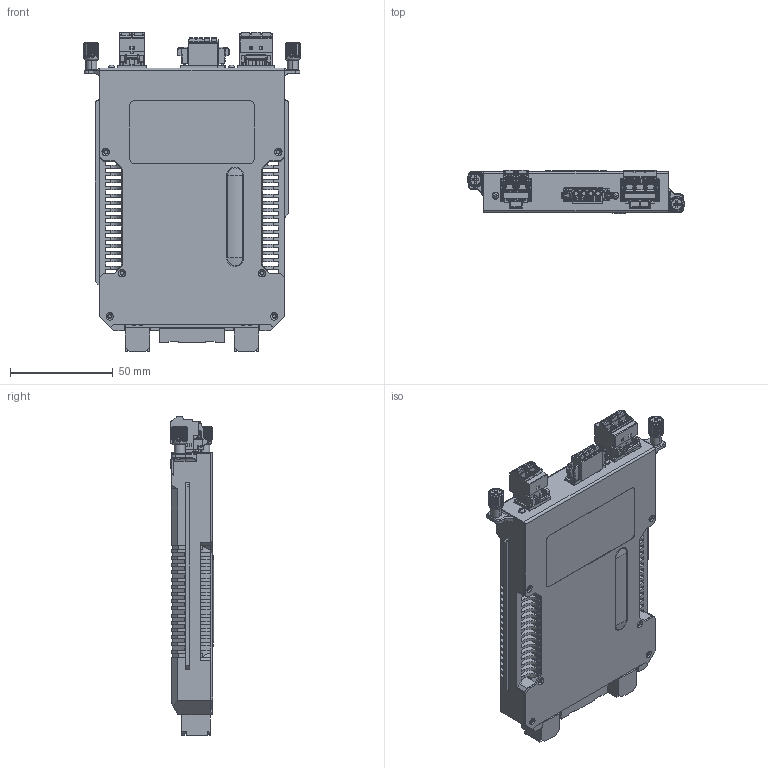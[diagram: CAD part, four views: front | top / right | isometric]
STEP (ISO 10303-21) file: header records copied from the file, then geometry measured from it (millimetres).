
FILE_DESCRIPTION((''),'2;1');
FILE_NAME('M-POWER_PZ','2017-11-10T',('CharlieSW_Chou'),('PTC'),'PRO/ENGINEER BY PARAMETRIC TECHNOLOGY CORPORATION, 2013230','PRO/ENGINEER BY PARAMETRIC TECHNOLOGY CORPORATION, 2013230','');
FILE_SCHEMA(('AUTOMOTIVE_DESIGN { 1 0 10303 214 1 1 1 1 }'));
Products named in the file (1): M-POWER_PZ
Bounding box: 105.5 x 21 x 155.45 mm (x, y, z)
Volume: 85107 mm3; surface area: 104901.6 mm2
Topology: 1 solids, 15 shells, 6791 faces, 18668 edges, 11831 vertices
Faces by surface type: plane 4040, cylinder 1786, bspline 406, cone 239, torus 158, sphere 154, extrusion 8
Entity records: 252457 total; most frequent: CARTESIAN_POINT 57362, ORIENTED_EDGE 37022, DIRECTION 32195, EDGE_CURVE 18511, VECTOR 12991, LINE 12983, VERTEX_POINT 11831, AXIS2_PLACEMENT_3D 9602
